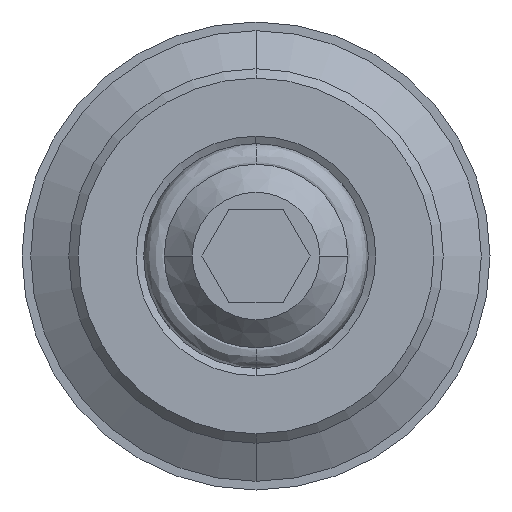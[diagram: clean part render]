
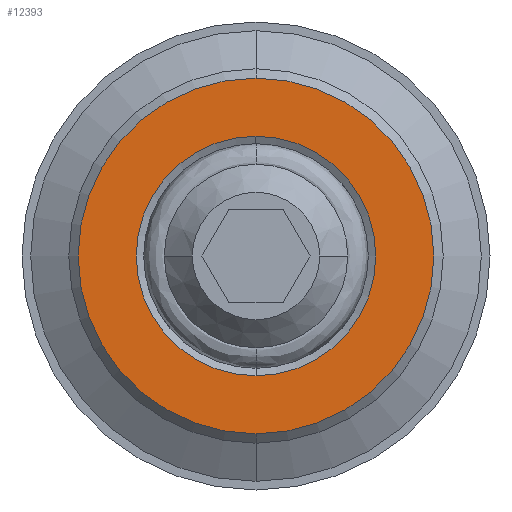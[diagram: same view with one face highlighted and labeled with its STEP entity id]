
A CAD part, front view. The second image highlights one B-rep face of the part: STEP entity #12393.
In plain terms, the highlighted planar face has unit normal (0, -1, 0).
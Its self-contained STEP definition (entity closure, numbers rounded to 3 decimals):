
#1481 = DIRECTION ( 'NONE',  ( 0., 1., 0. ) ) ;
#2120 = ORIENTED_EDGE ( 'NONE', *, *, #14920, .F. ) ;
#2139 = CARTESIAN_POINT ( 'NONE',  ( 0., 4., 3.2 ) ) ;
#2293 = DIRECTION ( 'NONE',  ( 0., 1., 0. ) ) ;
#2333 = CARTESIAN_POINT ( 'NONE',  ( 0., 4., -4.75 ) ) ;
#2384 = DIRECTION ( 'NONE',  ( 0., 0., -1. ) ) ;
#2413 = CARTESIAN_POINT ( 'NONE',  ( 0., 4., 0. ) ) ;
#3019 = ORIENTED_EDGE ( 'NONE', *, *, #10658, .T. ) ;
#3046 = AXIS2_PLACEMENT_3D ( 'NONE', #11473, #2293, #2384 ) ;
#3128 = CARTESIAN_POINT ( 'NONE',  ( 0., 4., 4.75 ) ) ;
#3348 = CIRCLE ( 'NONE', #9930, 4.75 ) ;
#3561 = DIRECTION ( 'NONE',  ( 0., 0., 1. ) ) ;
#3778 = EDGE_LOOP ( 'NONE', ( #2120, #4423 ) ) ;
#4330 = DIRECTION ( 'NONE',  ( 0., -1., 0. ) ) ;
#4423 = ORIENTED_EDGE ( 'NONE', *, *, #7891, .F. ) ;
#4587 = FACE_BOUND ( 'NONE', #8262, .T. ) ;
#4731 = FACE_OUTER_BOUND ( 'NONE', #3778, .T. ) ;
#5101 = CARTESIAN_POINT ( 'NONE',  ( 0., 4., -3.2 ) ) ;
#5115 = VERTEX_POINT ( 'NONE', #2139 ) ;
#5572 = EDGE_CURVE ( 'NONE', #5115, #11078, #14236, .T. ) ;
#5926 = AXIS2_PLACEMENT_3D ( 'NONE', #8354, #1481, #9520 ) ;
#5948 = VERTEX_POINT ( 'NONE', #2333 ) ;
#6411 = ORIENTED_EDGE ( 'NONE', *, *, #5572, .T. ) ;
#6505 = DIRECTION ( 'NONE',  ( 0., 1., 0. ) ) ;
#7278 = CIRCLE ( 'NONE', #11339, 3.2 ) ;
#7517 = VERTEX_POINT ( 'NONE', #3128 ) ;
#7891 = EDGE_CURVE ( 'NONE', #5948, #7517, #10580, .T. ) ;
#8262 = EDGE_LOOP ( 'NONE', ( #3019, #6411 ) ) ;
#8354 = CARTESIAN_POINT ( 'NONE',  ( 0., 4., 0. ) ) ;
#9520 = DIRECTION ( 'NONE',  ( 0., 0., 1. ) ) ;
#9930 = AXIS2_PLACEMENT_3D ( 'NONE', #2413, #10519, #3561 ) ;
#10519 = DIRECTION ( 'NONE',  ( 0., 1., 0. ) ) ;
#10580 = CIRCLE ( 'NONE', #5926, 4.75 ) ;
#10658 = EDGE_CURVE ( 'NONE', #11078, #5115, #7278, .T. ) ;
#11078 = VERTEX_POINT ( 'NONE', #5101 ) ;
#11339 = AXIS2_PLACEMENT_3D ( 'NONE', #13525, #6505, #14641 ) ;
#11473 = CARTESIAN_POINT ( 'NONE',  ( 0., 4., 0. ) ) ;
#12393 = ADVANCED_FACE ( 'NONE', ( #4587, #4731 ), #14578, .T. ) ;
#12508 = DIRECTION ( 'NONE',  ( 0., 0., -1. ) ) ;
#12599 = AXIS2_PLACEMENT_3D ( 'NONE', #13614, #4330, #12508 ) ;
#13525 = CARTESIAN_POINT ( 'NONE',  ( 0., 4., 0. ) ) ;
#13614 = CARTESIAN_POINT ( 'NONE',  ( -4.807, 4., 4.807 ) ) ;
#14236 = CIRCLE ( 'NONE', #3046, 3.2 ) ;
#14578 = PLANE ( 'NONE',  #12599 ) ;
#14641 = DIRECTION ( 'NONE',  ( 0., 0., -1. ) ) ;
#14920 = EDGE_CURVE ( 'NONE', #7517, #5948, #3348, .T. ) ;
